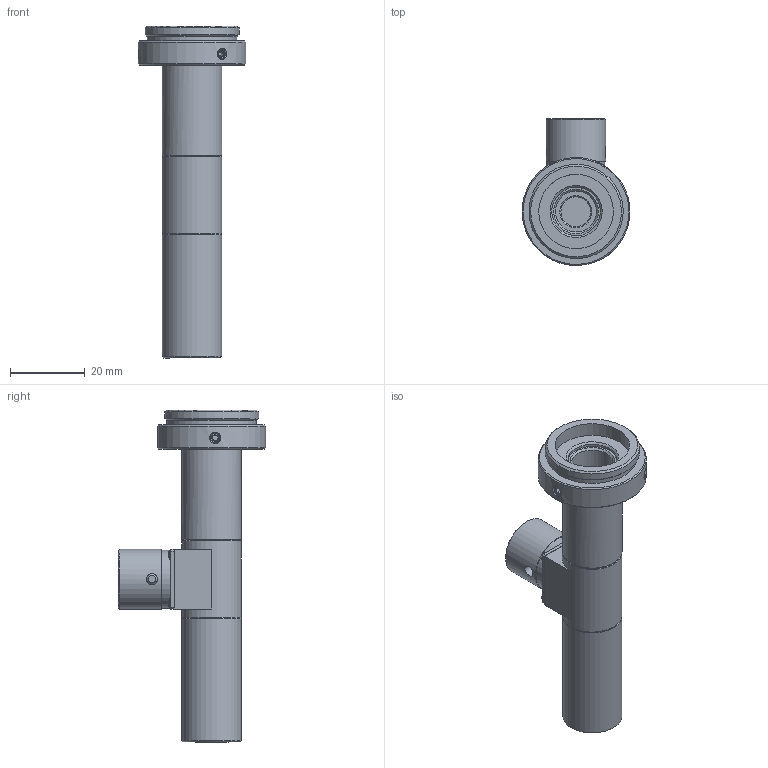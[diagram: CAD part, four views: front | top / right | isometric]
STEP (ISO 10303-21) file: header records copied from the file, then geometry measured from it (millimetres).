
FILE_DESCRIPTION(('STEP AP214'),'1');
FILE_NAME('RTK-2F-110.stp','2026-03-17T05:35:51',(' '),(' '),'Spatial InterOp 3D',' ',' ');
FILE_SCHEMA(('AUTOMOTIVE_DESIGN { 1 0 10303 214 1 1 1 1 }'));
Length unit declared in the file: metre
Products named in the file (2): RTK-2F-110; Component1
Assembly tree (1 placements, depth 2):
  RTK-2F-110
    Component1
Bounding box: 28.97 x 39.47 x 89.12 mm (x, y, z)
Volume: 13588.3 mm3; surface area: 13406.7 mm2
Topology: 1 solids, 8 shells, 399 faces, 1001 edges, 645 vertices
Faces by surface type: plane 183, cone 118, cylinder 79, torus 8, sphere 8, bspline 3
Full cylindrical faces by diameter (mm): 1.7 x8, 1.8 x4, 2.5 x6, 3 x3, 6.5 x1, 8 x2, 9 x1, 10 x1, 11 x1, 12 x2, 12.7 x1, 12.9 x1, 13 x2, 13.4 x1, 13.5 x4, 13.7 x1, 13.9 x1, 14 x1, 14.2 x3, 14.7 x1, 15.5 x1, 16 x6, 20 x1, 24.12 x1, 25.32 x1, 29 x1
Entity records: 14885 total; most frequent: CARTESIAN_POINT 2784, DIRECTION 1922, ORIENTED_EDGE 1638, EDGE_CURVE 819, AXIS2_PLACEMENT_3D 817, VERTEX_POINT 589, EDGE_LOOP 575, FACE_OUTER_BOUND 465
